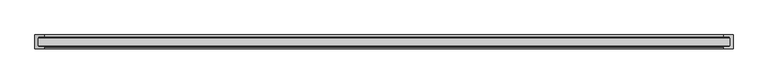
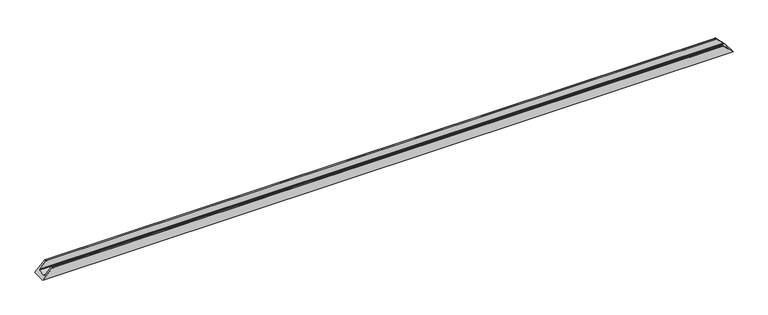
"""IFC4 building model written with IfcOpenShell, lengths in millimetres: proxy geometry, Weiku - Montante - Caixilho único 02.3.02.403 : Weiku - Montante - Caixilho único 02.3.02.403."""

from ifc_helpers import new_model, si_unit, frame, origin, place, context, project, spatial, ellipse_curve, source, transform, mapped, element, save
from ifc_brep_helpers import plane_surface, cylinder_surface, advanced_brep


def generic_models_3ea84d87(model_context):
    return source(origin(), model_context, "Body", "AdvancedBrep", [
        advanced_brep(
        [(-1977.8, 9.8, 18.2), (-1940.1, 9.8, 55.9), (1940.1, 9.8, 55.9), (1977.8, 9.8, 18.2), (-1980.3000079, 63.85, 15.6999921), (-1980.3000079, 15.05, 15.6999921), (1980.3000079, 15.05, 15.6999921), (1980.3000079, 63.85, 15.6999921), (-1996.0, 78.9, 0.0), (1996.0, 78.9, 0.0), (1996.0, 0.0, 0.0), (-1996.0, 0.0, 0.0), (1940.1, 0.0, 55.9), (-1940.1, 0.0, 55.9), (-1939.6, 9.3, 56.4), (-1939.6, 0.5, 56.4), (1939.6, 0.5, 56.4), (1939.6, 9.3, 56.4), (-1977.8, 15.05, 18.2), (1977.8, 15.05, 18.2), (-1977.8, 63.85, 18.2), (1977.8, 63.85, 18.2), (-1977.8, 69.1, 18.2), (1977.8, 69.1, 18.2), (-1940.1, 69.1, 55.9), (1940.1, 69.1, 55.9), (-1939.6, 78.4, 56.4), (-1939.6, 69.6, 56.4), (1939.6, 69.6, 56.4), (1939.6, 78.4, 56.4), (-1940.1, 78.9, 55.9), (1940.1, 78.9, 55.9)],
        [
            (0, 1),
            (1, 2),
            (2, 3),
            (3, 0),
            (4, 5),
            (5, 6),
            (6, 7),
            (7, 4),
            (8, 9),
            (9, 10),
            (10, 11),
            (11, 8),
            (10, 12),
            (12, 13),
            (13, 11),
            (14, 15),
            (15, 16),
            (16, 17),
            (17, 14),
            (18, 0),
            (3, 19),
            (19, 18),
            (5, 18),
            (19, 6),
            (15, 13, ellipse_curve(frame((-1940.1, 0.5, 55.9), z_axis=(0.7071067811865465, 0.0, -0.7071067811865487), x_axis=(-0.7071067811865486, 0.0, -0.7071067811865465)), 0.7071068, 0.5)),
            (12, 16, ellipse_curve(frame((1940.1, 0.5, 55.9), z_axis=(-0.7071067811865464, 0.0, -0.7071067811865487), x_axis=(-0.7071067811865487, 0.0, 0.7071067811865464)), 0.7071068, 0.5)),
            (20, 4),
            (7, 21),
            (21, 20),
            (22, 20),
            (21, 23),
            (23, 22),
            (24, 22),
            (23, 25),
            (25, 24),
            (26, 27),
            (27, 28),
            (28, 29),
            (29, 26),
            (30, 26, ellipse_curve(frame((-1940.1, 78.4, 55.9), z_axis=(0.7071067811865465, 0.0, -0.7071067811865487), x_axis=(-0.7071067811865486, 0.0, -0.7071067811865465)), 0.7071068, 0.5)),
            (29, 31, ellipse_curve(frame((1940.1, 78.4, 55.9), z_axis=(-0.7071067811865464, 0.0, -0.7071067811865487), x_axis=(-0.7071067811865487, 0.0, 0.7071067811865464)), 0.7071068, 0.5)),
            (31, 30),
            (8, 30),
            (31, 9),
            (1, 14, ellipse_curve(frame((-1940.1, 9.3, 55.9), z_axis=(0.7071067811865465, 0.0, -0.7071067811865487), x_axis=(-0.7071067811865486, 0.0, -0.7071067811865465)), 0.7071068, 0.5)),
            (17, 2, ellipse_curve(frame((1940.1, 9.3, 55.9), z_axis=(-0.7071067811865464, 0.0, -0.7071067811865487), x_axis=(-0.7071067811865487, 0.0, 0.7071067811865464)), 0.7071068, 0.5)),
            (27, 24, ellipse_curve(frame((-1940.1, 69.6, 55.9), z_axis=(0.7071067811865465, 0.0, -0.7071067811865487), x_axis=(-0.7071067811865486, 0.0, -0.7071067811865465)), 0.7071068, 0.5)),
            (25, 28, ellipse_curve(frame((1940.1, 69.6, 55.9), z_axis=(-0.7071067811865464, 0.0, -0.7071067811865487), x_axis=(-0.7071067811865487, 0.0, 0.7071067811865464)), 0.7071068, 0.5)),
        ],
        [
            plane_surface(frame((-1996.0, 9.8, 55.9), z_axis=(0.0, 1.0, 0.0), x_axis=(1.0, 0.0, 0.0))),
            plane_surface(frame((-1996.0, 15.05, 15.6999921), z_axis=(0.0, 0.0, 1.0), x_axis=(1.0, 0.0, 0.0))),
            plane_surface(frame((-1996.0, 78.9, 0.0), z_axis=(0.0, 0.0, -1.0), x_axis=(1.0, 0.0, 0.0))),
            plane_surface(frame((-1996.0, 0.0, 0.0), z_axis=(0.0, -1.0, 0.0), x_axis=(1.0, 0.0, 0.0))),
            plane_surface(frame((-1996.0, 0.5, 56.4), z_axis=(0.0, 0.0, 1.0), x_axis=(1.0, 0.0, 0.0))),
            plane_surface(frame((-1996.0, 9.8, 18.2), z_axis=(0.0, 0.0, 1.0), x_axis=(1.0, 0.0, 0.0))),
            plane_surface(frame((-1996.0, 15.05, 18.2), z_axis=(0.0, 1.0, 0.0), x_axis=(1.0, 0.0, 0.0))),
            cylinder_surface(frame((-1996.0, 0.5, 55.9), z_axis=(-1.0, 0.0, 0.0), x_axis=(0.0, 1.0, 0.0)), 0.5),
            plane_surface(frame((-1996.0, 63.85, 15.6999921), z_axis=(0.0, -1.0, 0.0), x_axis=(1.0, 0.0, 0.0))),
            plane_surface(frame((-1996.0, 63.85, 18.2), z_axis=(0.0, 0.0, 1.0), x_axis=(1.0, 0.0, 0.0))),
            plane_surface(frame((-1996.0, 69.1, 18.2), z_axis=(0.0, -1.0, 0.0), x_axis=(1.0, 0.0, 0.0))),
            plane_surface(frame((-1996.0, 69.6, 56.4), z_axis=(0.0, 0.0, 1.0), x_axis=(1.0, 0.0, 0.0))),
            cylinder_surface(frame((-1996.0, 78.4, 55.9), z_axis=(-1.0, 0.0, 0.0), x_axis=(0.0, -1.0, 0.0)), 0.5),
            plane_surface(frame((-1996.0, 78.9, 55.9), z_axis=(0.0, 1.0, 0.0), x_axis=(1.0, 0.0, 0.0))),
            cylinder_surface(frame((-1996.0, 9.3, 55.9), z_axis=(-1.0, 0.0, 0.0), x_axis=(0.0, 1.0, 0.0)), 0.5),
            cylinder_surface(frame((-1996.0, 69.6, 55.9), z_axis=(-1.0, 0.0, 0.0), x_axis=(0.0, 1.0, 0.0)), 0.5),
            plane_surface(frame((-1996.0, 0.0, 0.0), z_axis=(-0.7071067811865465, 0.0, 0.7071067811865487), x_axis=(0.0, 1.0, 0.0))),
            plane_surface(frame((1936.0, 0.0, 60.0), z_axis=(0.7071067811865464, 0.0, 0.7071067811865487), x_axis=(0.0, 1.0, 0.0))),
        ],
        [
            (0, [[1, 2, 3, 4]]),
            (1, [[5, 6, 7, 8]]),
            (2, [[9, 10, 11, 12]]),
            (3, [[-11, 13, 14, 15]]),
            (4, [[16, 17, 18, 19]]),
            (5, [[20, -4, 21, 22]]),
            (6, [[23, -22, 24, -6]]),
            (7, [[25, -14, 26, -17]]),
            (8, [[27, -8, 28, 29]]),
            (9, [[30, -29, 31, 32]]),
            (10, [[33, -32, 34, 35]]),
            (11, [[36, 37, 38, 39]]),
            (12, [[40, -39, 41, 42]]),
            (13, [[-9, 43, -42, 44]]),
            (14, [[45, -19, 46, -2]]),
            (15, [[47, -35, 48, -37]]),
            (16, [[-1, -20, -23, -5, -27, -30, -33, -47, -36, -40, -43, -12, -15, -25, -16, -45]]),
            (17, [[-3, -46, -18, -26, -13, -10, -44, -41, -38, -48, -34, -31, -28, -7, -24, -21]]),
        ],
    ),
    ])


if __name__ == "__main__":
    model = new_model("IFC4")
    model_context = context("Model", 3, world=origin())
    ifc_project = project(units=[si_unit("LENGTHUNIT", "METRE", prefix="MILLI")], contexts=[model_context])
    site = spatial("IfcSite", under=ifc_project)
    building = spatial("IfcBuilding", under=site)
    placement = place(None, origin())
    generic_models_shape = generic_models_3ea84d87(model_context)
    element("IfcBuildingElementProxy", 1, Name="Weiku - Montante - Caixilho único 02.3.02.403 : Weiku - Montante - Caixilho único 02.3.02.403", ObjectType="Weiku - Montante - Caixilho único 02.3.02.403 : Weiku - Montante - Caixilho único 02.3.02.403", at=placement, inside=building, context=model_context, shape_type="MappedRepresentation", body=[
        mapped(generic_models_shape, transform((0.0, 0.0, 0.0), x_axis=(1.0, 0.0, 0.0), y_axis=(0.0, 1.0, 0.0), z_axis=(0.0, 0.0, 1.0))),
    ])
    save(model, "model.ifc")
